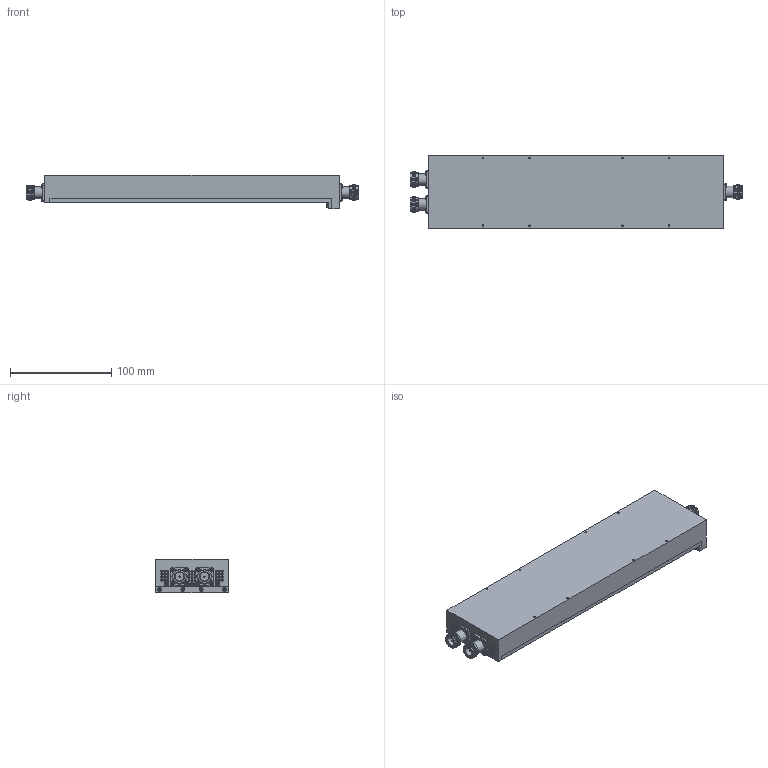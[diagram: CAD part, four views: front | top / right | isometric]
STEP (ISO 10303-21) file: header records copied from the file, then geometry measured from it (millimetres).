
FILE_DESCRIPTION(/* description */ ('Unknown'),/* implementation_level */ '2;1');
FILE_NAME(/* name */ 'DETI_MICROWAVE_MULTI_OCTAVE_BROADBAND_COMBINER _011145_STEP',/* time_stamp */ '2021-06-14T17:02:51+02:00',/* author */ ('ALG'),/* organization */ ('DETI'),/* preprocessor_version */ 'ST-DEVELOPER v16.7',/* originating_system */ 'Solid Edge',/* authorisation */ 'Unknown');
FILE_SCHEMA (('AUTOMOTIVE_DESIGN {1 0 10303 214 3 1 1}'));
Length unit declared in the file: millimetre
Products named in the file (8): pour mise en ligne; CO-2-700-1500-700-NF-NF - boitier_vide; CO-2-700-1500-700-NF-NF - capotvide; 931 304 02 04 01 DE A; 931 504 04 04 01 DE A; 920 319 01 04 01 XX A; 931 704 02 04 01 DE A
Assembly tree (39 placements, depth 3):
  pour mise en ligne
    CO-2-700-1500-700-NF-NF - boitier_vide
    CO-2-700-1500-700-NF-NF - capotvide
    931 304 02 04 01 DE A  x4
    931 504 04 04 01 DE A  x25
    920 319 01 04 01 XX A  x3
      920 319 01 04 01 XX A
      931 704 02 04 01 DE A
Bounding box: 327.87 x 71.7 x 33 mm (x, y, z)
Volume: 345691.3 mm3; surface area: 126407.8 mm2
Topology: 46 solids, 58 shells, 1495 faces, 3599 edges, 2334 vertices
Faces by surface type: plane 903, cylinder 350, cone 189, torus 41, sphere 12
Full cylindrical faces by diameter (mm): 0.4 x12, 1.27 x6, 1.567 x45, 2 x142, 2.2 x29, 3.2 x12, 3.8 x29, 4.1 x2, 6.9 x1, 7.6 x3, 8.61 x3, 11.4 x3, 12.2 x1, 12.4 x3, 13.8 x15, 15 x12
Entity records: 13152 total; most frequent: CARTESIAN_POINT 1923, DIRECTION 1901, ORIENTED_EDGE 1356, FACE_BOUND 888, EDGE_LOOP 887, AXIS2_PLACEMENT_3D 843, EDGE_CURVE 678, VERTEX_POINT 570
